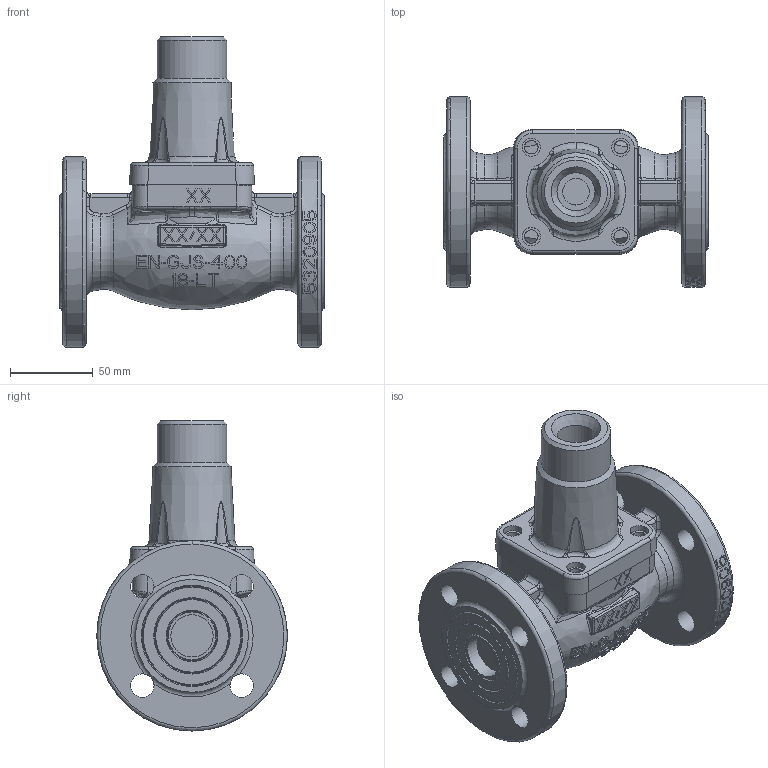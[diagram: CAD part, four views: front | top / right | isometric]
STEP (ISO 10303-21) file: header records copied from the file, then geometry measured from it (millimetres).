
FILE_DESCRIPTION(('TFLEX Exchange Step'),'2;1');
FILE_NAME('VFG-2R DN 25.stp', '2025-11-10T14:11:16+03:00',('RUCO3829'),('Unknown organisation'),'TFLEX Exchange 2024.6','T-FLEX CAD','Unknown authorisation');
FILE_SCHEMA( ('AUTOMOTIVE_DESIGN { 1 0 10303 214 1 1 1 1 }') );
Length unit declared in the file: millimetre
Bounding box: 160 x 115 x 187.3 mm (x, y, z)
Volume: 890219.5 mm3; surface area: 106542.5 mm2
Topology: 1 solids, 3 shells, 1383 faces, 3835 edges, 2503 vertices
Faces by surface type: plane 1070, bspline 159, cylinder 91, torus 34, cone 21, sphere 8
Full cylindrical faces by diameter (mm): 2.3 x2, 8.16 x4, 11 x4, 14.1 x8, 16 x1, 23 x1, 25.5 x2, 42 x1, 115 x2
Entity records: 58788 total; most frequent: CARTESIAN_POINT 27890, ORIENTED_EDGE 7634, DIRECTION 4611, EDGE_CURVE 3817, VERTEX_POINT 2503, B_SPLINE_CURVE_WITH_KNOTS 1841, AXIS2_PLACEMENT_3D 1562, VECTOR 1487
